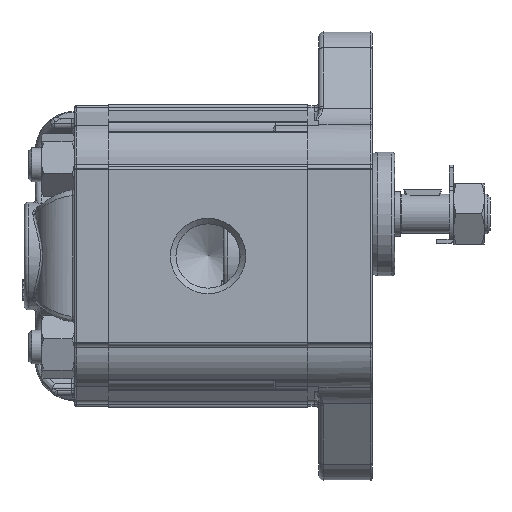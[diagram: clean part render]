
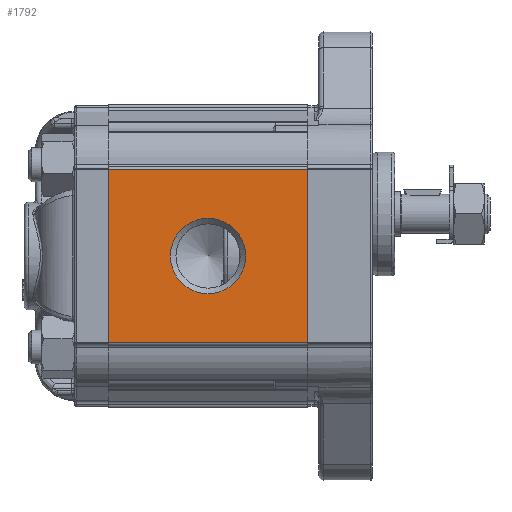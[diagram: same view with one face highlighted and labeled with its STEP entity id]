
A CAD part, left-side view. The second image highlights one B-rep face of the part: STEP entity #1792.
In plain terms, the highlighted planar face has unit normal (-1, 0, 0).
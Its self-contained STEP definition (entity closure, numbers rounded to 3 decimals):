
#1792 = ADVANCED_FACE( '', ( #5087, #5088 ), #5089, .T. );
#5087 = FACE_BOUND( '', #10163, .T. );
#5088 = FACE_OUTER_BOUND( '', #10164, .T. );
#5089 = PLANE( '', #10165 );
#10163 = EDGE_LOOP( '', ( #18707 ) );
#10164 = EDGE_LOOP( '', ( #18708, #18709, #18710, #18711 ) );
#10165 = AXIS2_PLACEMENT_3D( '', #18712, #18713, #18714 );
#18707 = ORIENTED_EDGE( '', *, *, #32664, .T. );
#18708 = ORIENTED_EDGE( '', *, *, #32665, .F. );
#18709 = ORIENTED_EDGE( '', *, *, #32637, .F. );
#18710 = ORIENTED_EDGE( '', *, *, #32666, .T. );
#18711 = ORIENTED_EDGE( '', *, *, #32667, .T. );
#18712 = CARTESIAN_POINT( '', ( -25., 35.5, 15.418 ) );
#18713 = DIRECTION( '', ( -1., 0., 0. ) );
#18714 = DIRECTION( '', ( 0., 0., 1. ) );
#32637 = EDGE_CURVE( '', #38868, #38864, #38870, .T. );
#32664 = EDGE_CURVE( '', #38915, #38915, #38916, .F. );
#32665 = EDGE_CURVE( '', #38864, #38917, #38918, .T. );
#32666 = EDGE_CURVE( '', #38868, #38919, #38920, .T. );
#32667 = EDGE_CURVE( '', #38919, #38917, #38921, .T. );
#38864 = VERTEX_POINT( '', #47857 );
#38868 = VERTEX_POINT( '', #47862 );
#38870 = LINE( '', #47864, #47865 );
#38915 = VERTEX_POINT( '', #47991 );
#38916 = CIRCLE( '', #47992, 6.723 );
#38917 = VERTEX_POINT( '', #47993 );
#38918 = LINE( '', #47994, #47995 );
#38919 = VERTEX_POINT( '', #47996 );
#38920 = LINE( '', #47997, #47998 );
#38921 = LINE( '', #47999, #48000 );
#47857 = CARTESIAN_POINT( '', ( -25., 0., 15.418 ) );
#47862 = CARTESIAN_POINT( '', ( -25., 35.5, 15.418 ) );
#47864 = CARTESIAN_POINT( '', ( -25., 35.5, 15.418 ) );
#47865 = VECTOR( '', #63042, 1000. );
#47991 = CARTESIAN_POINT( '', ( -25., 17.75, 6.723 ) );
#47992 = AXIS2_PLACEMENT_3D( '', #63073, #63074, #63075 );
#47993 = CARTESIAN_POINT( '', ( -25., 0., -15.418 ) );
#47994 = CARTESIAN_POINT( '', ( -25., 0., 15.418 ) );
#47995 = VECTOR( '', #63076, 1000. );
#47996 = CARTESIAN_POINT( '', ( -25., 35.5, -15.418 ) );
#47997 = CARTESIAN_POINT( '', ( -25., 35.5, 15.418 ) );
#47998 = VECTOR( '', #63077, 1000. );
#47999 = CARTESIAN_POINT( '', ( -25., 35.5, -15.418 ) );
#48000 = VECTOR( '', #63078, 1000. );
#63042 = DIRECTION( '', ( 0., -1., 0. ) );
#63073 = CARTESIAN_POINT( '', ( -25., 17.75, 0. ) );
#63074 = DIRECTION( '', ( -1., 0., 0. ) );
#63075 = DIRECTION( '', ( 0., 0., 1. ) );
#63076 = DIRECTION( '', ( 0., 0., -1. ) );
#63077 = DIRECTION( '', ( 0., 0., -1. ) );
#63078 = DIRECTION( '', ( 0., -1., 0. ) );
